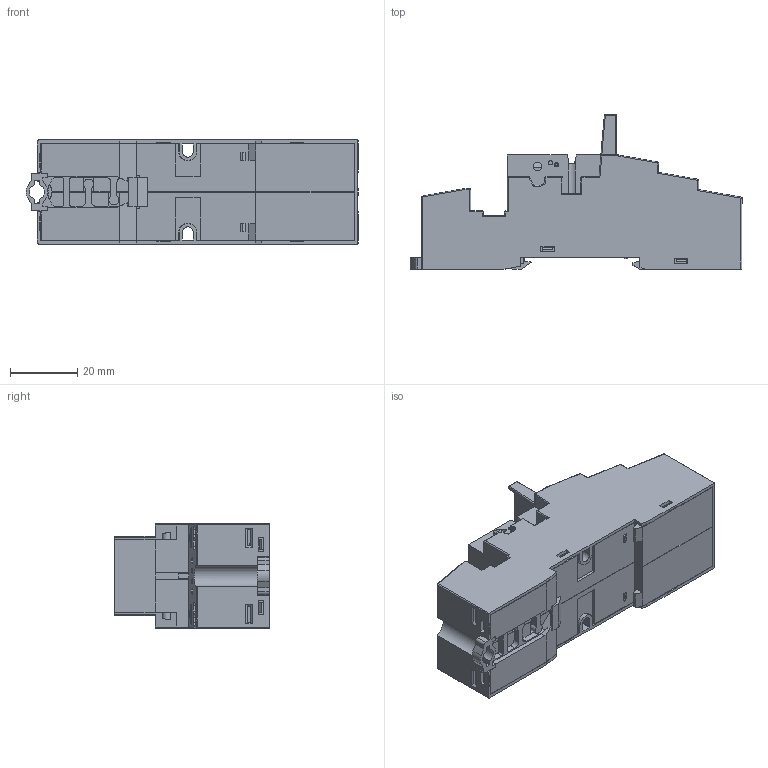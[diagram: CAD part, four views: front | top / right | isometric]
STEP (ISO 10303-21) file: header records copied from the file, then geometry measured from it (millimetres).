
FILE_DESCRIPTION(/* description */ (''),/* implementation_level */ '2;1');
FILE_NAME(/* name */ 'C:\Desktop\Assieme 94.P4.stp',/* time_stamp */ '2016-09-05T09:43:51+02:00',/* author */ ('marco'),/* organization */ (''),/* preprocessor_version */ 'ST-DEVELOPER v16.1',/* originating_system */ 'Autodesk Inventor 2016',/* authorisation */ '');
FILE_SCHEMA (('AUTOMOTIVE_DESIGN { 1 0 10303 214 3 1 1 }'));
Products named in the file (1): Assieme 94.P4
Bounding box: 98.9 x 46 x 31 mm (x, y, z)
Volume: 29179.3 mm3; surface area: 59207.4 mm2
Topology: 13 solids, 13 shells, 4265 faces, 11905 edges, 7639 vertices
Faces by surface type: plane 3162, cylinder 785, torus 120, cone 114, bspline 54, sphere 30
Full cylindrical faces by diameter (mm): 1.2 x4, 2.2 x14, 2.5 x2, 3 x2
Entity records: 140370 total; most frequent: CARTESIAN_POINT 25787, ORIENTED_EDGE 23746, DIRECTION 21779, EDGE_CURVE 11873, LINE 9891, VECTOR 9891, VERTEX_POINT 7633, AXIS2_PLACEMENT_3D 5944
